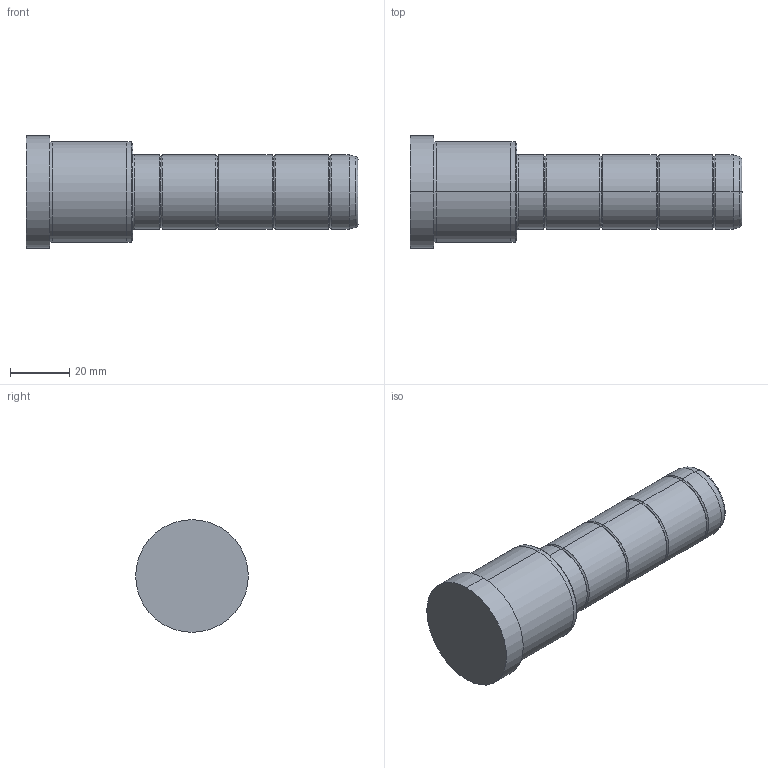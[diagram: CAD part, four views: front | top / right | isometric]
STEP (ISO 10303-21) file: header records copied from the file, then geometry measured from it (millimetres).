
FILE_DESCRIPTION( ( 'STEP AP203' ), '1' );
FILE_NAME( 'C:/Projects/D02 - 25x36x76.step', '2002-12-31T22:10:21', ( ' ' ), ( ' ' ), 'XStep 1.0', ' ', ' ' );
FILE_SCHEMA( ( 'CONFIG_CONTROL_DESIGN' ) );
Length unit declared in the file: metre
Products named in the file (1): 1
Bounding box: 112 x 38 x 38 mm (x, y, z)
Volume: 71596.7 mm3; surface area: 12227.7 mm2
Topology: 1 solids, 1 shells, 48 faces, 94 edges, 52 vertices
Faces by surface type: bspline 26, revolution 22
Entity records: 1523 total; most frequent: CARTESIAN_POINT 617, ORIENTED_EDGE 188, DIRECTION 150, EDGE_CURVE 94, AXIS2_PLACEMENT_3D 53, EDGE_LOOP 52, VERTEX_POINT 52, CIRCLE 52
